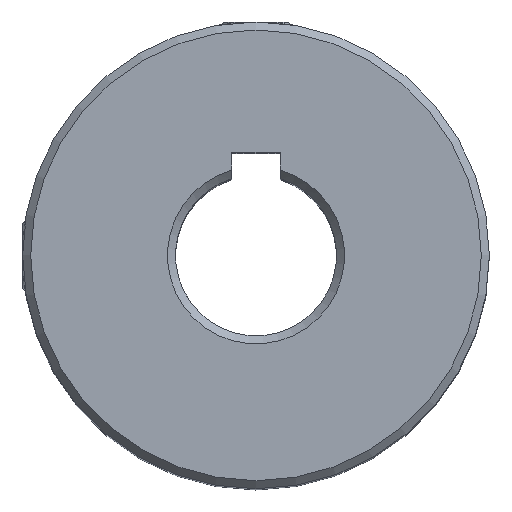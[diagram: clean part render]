
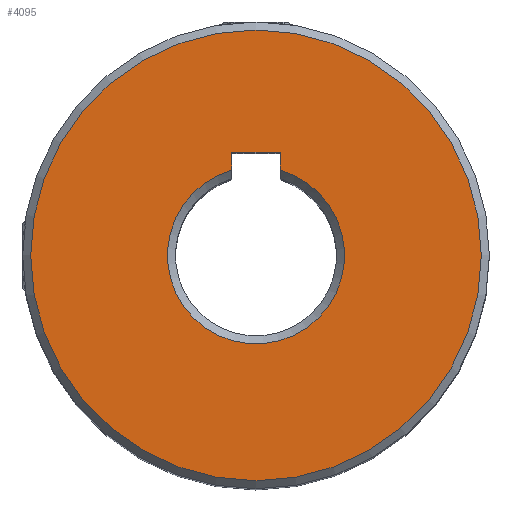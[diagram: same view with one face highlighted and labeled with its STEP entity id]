
A CAD part, top view. The second image highlights one B-rep face of the part: STEP entity #4095.
In plain terms, the highlighted planar face has unit normal (0, 0, 1).
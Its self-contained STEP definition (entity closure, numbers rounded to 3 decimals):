
#128 = ORIENTED_EDGE ( 'NONE', *, *, #4981, .F. ) ;
#279 = DIRECTION ( 'NONE',  ( 0., 0., -1. ) ) ;
#504 = LINE ( 'NONE', #4783, #2190 ) ;
#636 = CARTESIAN_POINT ( 'NONE',  ( 1.5, 6.4, 22.5 ) ) ;
#967 = CARTESIAN_POINT ( 'NONE',  ( 0., 0., 22.5 ) ) ;
#1173 = ORIENTED_EDGE ( 'NONE', *, *, #2163, .F. ) ;
#1201 = VERTEX_POINT ( 'NONE', #5910 ) ;
#1319 = CARTESIAN_POINT ( 'NONE',  ( 1.5, 5.292, 22.5 ) ) ;
#1392 = EDGE_CURVE ( 'NONE', #2492, #1201, #7590, .T. ) ;
#1636 = DIRECTION ( 'NONE',  ( 0., 0., 1. ) ) ;
#1786 = EDGE_LOOP ( 'NONE', ( #6074 ) ) ;
#1884 = VERTEX_POINT ( 'NONE', #3918 ) ;
#1951 = ORIENTED_EDGE ( 'NONE', *, *, #1392, .T. ) ;
#2015 = AXIS2_PLACEMENT_3D ( 'NONE', #3004, #1636, #4136 ) ;
#2100 = FACE_OUTER_BOUND ( 'NONE', #1786, .T. ) ;
#2163 = EDGE_CURVE ( 'NONE', #1884, #3741, #2560, .T. ) ;
#2190 = VECTOR ( 'NONE', #7314, 1000. ) ;
#2492 = VERTEX_POINT ( 'NONE', #1319 ) ;
#2560 = LINE ( 'NONE', #7692, #3092 ) ;
#2817 = AXIS2_PLACEMENT_3D ( 'NONE', #967, #279, #3455 ) ;
#3004 = CARTESIAN_POINT ( 'NONE',  ( 0., 0., 22.5 ) ) ;
#3092 = VECTOR ( 'NONE', #5067, 1000. ) ;
#3427 = CARTESIAN_POINT ( 'NONE',  ( 14., 0., 22.5 ) ) ;
#3455 = DIRECTION ( 'NONE',  ( 1., 0., 0. ) ) ;
#3705 = ORIENTED_EDGE ( 'NONE', *, *, #6733, .F. ) ;
#3741 = VERTEX_POINT ( 'NONE', #7434 ) ;
#3918 = CARTESIAN_POINT ( 'NONE',  ( 1.5, 6.4, 22.5 ) ) ;
#4035 = VERTEX_POINT ( 'NONE', #3427 ) ;
#4095 = ADVANCED_FACE ( 'NONE', ( #7684, #2100 ), #4749, .T. ) ;
#4136 = DIRECTION ( 'NONE',  ( 1., 0., 0. ) ) ;
#4244 = AXIS2_PLACEMENT_3D ( 'NONE', #7172, #7846, #7902 ) ;
#4749 = PLANE ( 'NONE',  #4244 ) ;
#4783 = CARTESIAN_POINT ( 'NONE',  ( -1.5, 6.4, 22.5 ) ) ;
#4981 = EDGE_CURVE ( 'NONE', #2492, #1884, #5044, .T. ) ;
#5044 = LINE ( 'NONE', #636, #8013 ) ;
#5067 = DIRECTION ( 'NONE',  ( -1., 0., 0. ) ) ;
#5571 = CIRCLE ( 'NONE', #2015, 14. ) ;
#5910 = CARTESIAN_POINT ( 'NONE',  ( -1.5, 5.292, 22.5 ) ) ;
#6074 = ORIENTED_EDGE ( 'NONE', *, *, #6129, .T. ) ;
#6129 = EDGE_CURVE ( 'NONE', #4035, #4035, #5571, .T. ) ;
#6733 = EDGE_CURVE ( 'NONE', #3741, #1201, #504, .T. ) ;
#7172 = CARTESIAN_POINT ( 'NONE',  ( 0., 0., 22.5 ) ) ;
#7314 = DIRECTION ( 'NONE',  ( 0., -1., 0. ) ) ;
#7434 = CARTESIAN_POINT ( 'NONE',  ( -1.5, 6.4, 22.5 ) ) ;
#7544 = DIRECTION ( 'NONE',  ( 0., 1., 0. ) ) ;
#7590 = CIRCLE ( 'NONE', #2817, 5.5 ) ;
#7684 = FACE_BOUND ( 'NONE', #8055, .T. ) ;
#7692 = CARTESIAN_POINT ( 'NONE',  ( -1.5, 6.4, 22.5 ) ) ;
#7846 = DIRECTION ( 'NONE',  ( 0., 0., 1. ) ) ;
#7902 = DIRECTION ( 'NONE',  ( 1., 0., 0. ) ) ;
#8013 = VECTOR ( 'NONE', #7544, 1000. ) ;
#8055 = EDGE_LOOP ( 'NONE', ( #3705, #1173, #128, #1951 ) ) ;
